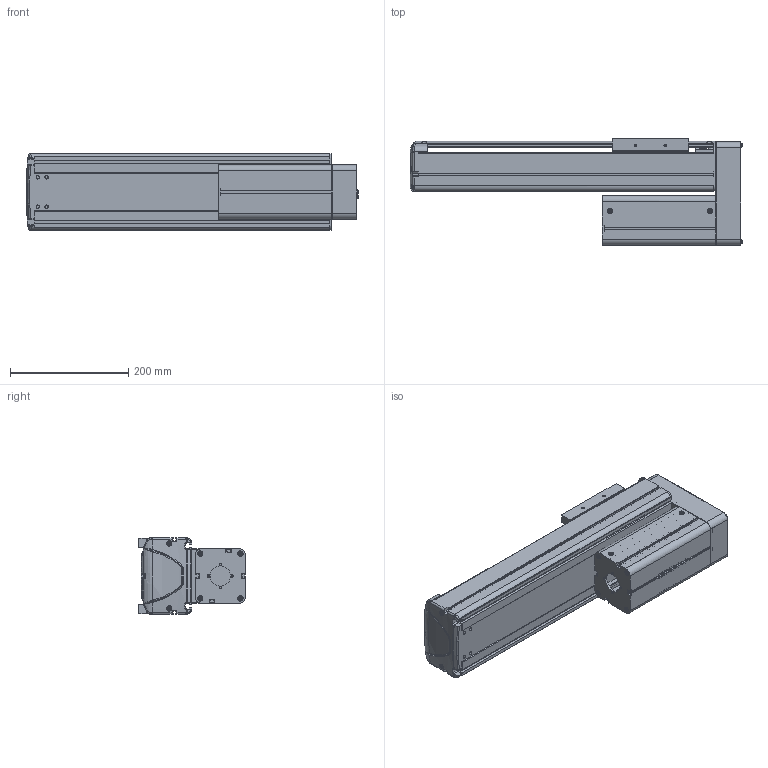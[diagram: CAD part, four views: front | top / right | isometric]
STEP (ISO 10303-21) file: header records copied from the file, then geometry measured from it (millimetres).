
FILE_DESCRIPTION((''),'2;1');
FILE_NAME('BE30E-UU-M_B-30_IGS_PRT','2017-06-17T',(' '),(''),'PRO/ENGINEER BY PARAMETRIC TECHNOLOGY CORPORATION, 2015030','PRO/ENGINEER BY PARAMETRIC TECHNOLOGY CORPORATION, 2015030','');
FILE_SCHEMA(('CONFIG_CONTROL_DESIGN'));
Length unit declared in the file: millimetre
Products named in the file (1): BE30E-UU-M_B-30_IGS_PRT
Bounding box: 561.9 x 180 x 130 mm (x, y, z)
Volume: 2215977.5 mm3; surface area: 988979.1 mm2
Topology: 2 solids, 103 shells, 1961 faces, 5262 edges, 3404 vertices
Faces by surface type: plane 986, cylinder 774, cone 107, torus 39, bspline 31, sphere 24
Entity records: 63241 total; most frequent: CARTESIAN_POINT 13368, DIRECTION 10533, ORIENTED_EDGE 10060, EDGE_CURVE 5224, AXIS2_PLACEMENT_3D 3674, VERTEX_POINT 3404, VECTOR 3185, LINE 3185
